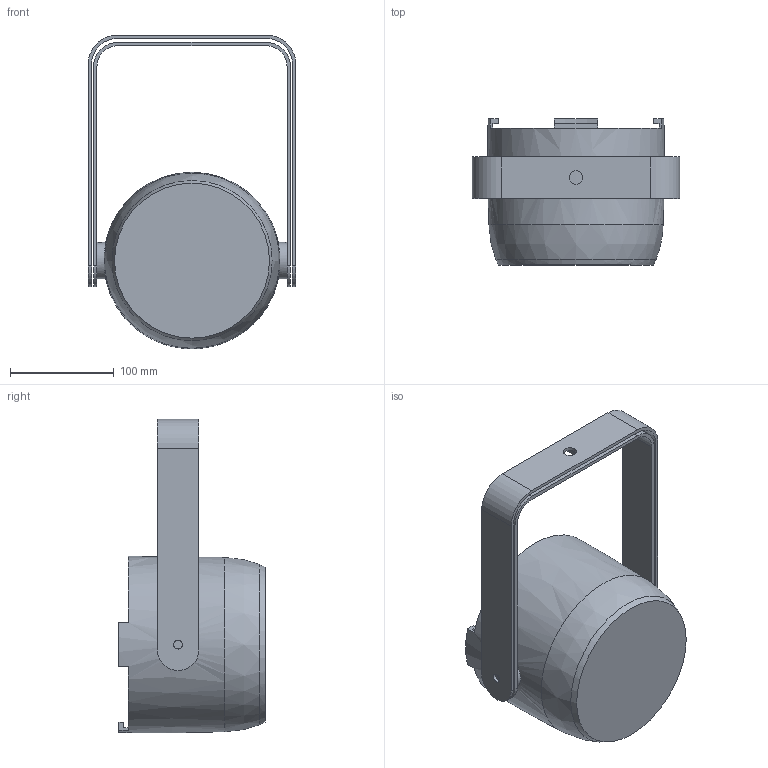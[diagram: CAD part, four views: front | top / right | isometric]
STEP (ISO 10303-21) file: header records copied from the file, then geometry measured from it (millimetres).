
FILE_DESCRIPTION(/* description */ (''),/* implementation_level */ '2;1');
FILE_NAME(/* name */ 'Colordash Par H7XIP_3D__90.stp',/* time_stamp */ '2023-01-11T11:38:38-05:00',/* author */ ('dgooch'),/* organization */ (''),/* preprocessor_version */ 'ST-DEVELOPER v19.2',/* originating_system */ 'Autodesk Inventor 2023',/* authorisation */ '');
FILE_SCHEMA (('AUTOMOTIVE_DESIGN { 1 0 10303 214 3 1 1 }'));
Length unit declared in the file: millimetre
Products named in the file (5): Colordash Par H7XIP; ASM0035_ASM (1); PRT0114 (1); PRT0115 (1); Component75
Assembly tree (4 placements, depth 3):
  Colordash Par H7XIP
    ASM0035_ASM (1)
      PRT0114 (1)
      PRT0115 (1)
    Component75
Bounding box: 199.8 x 140.8 x 301.89 mm (x, y, z)
Volume: 3044169.1 mm3; surface area: 225262.1 mm2
Topology: 3 solids, 3 shells, 66 faces, 173 edges, 116 vertices
Faces by surface type: plane 39, cylinder 24, bspline 3
Full cylindrical faces by diameter (mm): 8.5 x4, 13 x1, 35 x2, 135.213 x1
Entity records: 2537 total; most frequent: CARTESIAN_POINT 660, DIRECTION 370, ORIENTED_EDGE 346, EDGE_CURVE 173, AXIS2_PLACEMENT_3D 134, VERTEX_POINT 116, LINE 102, VECTOR 102
